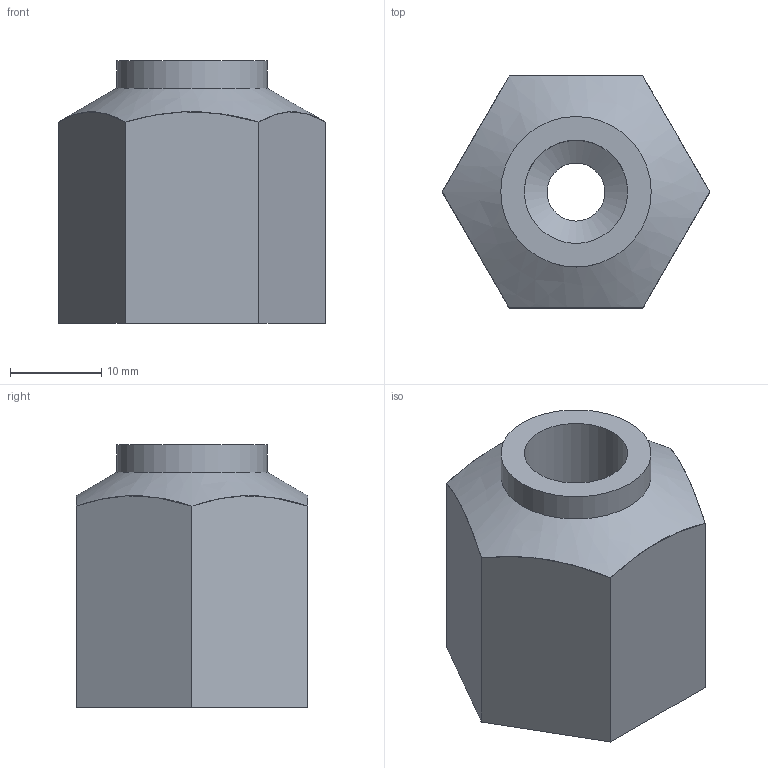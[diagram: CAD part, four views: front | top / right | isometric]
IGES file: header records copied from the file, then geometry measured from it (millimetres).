
Global section: file name: No Iges File Name specified; native system: AutoDesk Inventor R5.0; preprocessor: AutoDesk Inventor Iges Exporter R5.0; author: No Author specified; organization: No Organization specified; date: 20040116.185441; units: inch
Bounding box: 29.33 x 25.4 x 28.75 mm (x, y, z)
Surface area: 4098.3 mm2 (no closed solid volume)
Topology: 0 solids, 0 shells, 14 faces, 58 edges, 52 vertices
Faces by surface type: plane 8, bspline 4, revolution 2
